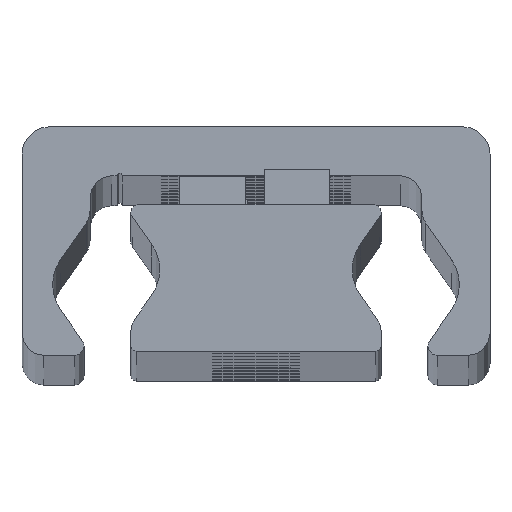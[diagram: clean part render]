
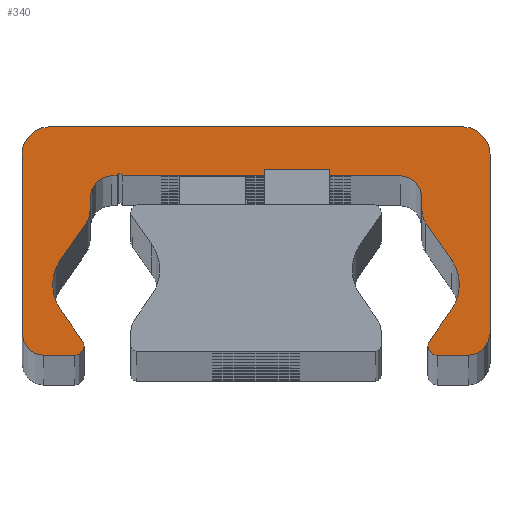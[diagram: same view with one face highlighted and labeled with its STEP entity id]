
A CAD part, top view. The second image highlights one B-rep face of the part: STEP entity #340.
In plain terms, the highlighted planar face has unit normal (0, 0, 1).
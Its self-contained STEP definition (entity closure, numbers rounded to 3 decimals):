
#340=ADVANCED_FACE('',(#978),#979,.T.);
#978=FACE_OUTER_BOUND('',#1617,.T.);
#979=PLANE('',#1618);
#1617=EDGE_LOOP('',(#3754,#3755,#3756,#3757,#3758,#3759,#3760,#3761,#3762,#3763,#3764,#3765,#3766,#3767,#3768,#3769,#3770,#3771,#3772,#3773,#3774,#3775,#3776,#3777,#3778,#3779,#3780,#3781,#3782,#3783));
#1618=AXIS2_PLACEMENT_3D('',#3784,#3785,#3786);
#3754=ORIENTED_EDGE('',*,*,#4199,.F.);
#3755=ORIENTED_EDGE('',*,*,#4502,.F.);
#3756=ORIENTED_EDGE('',*,*,#4185,.F.);
#3757=ORIENTED_EDGE('',*,*,#4501,.F.);
#3758=ORIENTED_EDGE('',*,*,#4497,.F.);
#3759=ORIENTED_EDGE('',*,*,#4494,.F.);
#3760=ORIENTED_EDGE('',*,*,#4491,.F.);
#3761=ORIENTED_EDGE('',*,*,#4488,.F.);
#3762=ORIENTED_EDGE('',*,*,#4485,.F.);
#3763=ORIENTED_EDGE('',*,*,#4482,.F.);
#3764=ORIENTED_EDGE('',*,*,#4479,.F.);
#3765=ORIENTED_EDGE('',*,*,#4476,.F.);
#3766=ORIENTED_EDGE('',*,*,#4473,.F.);
#3767=ORIENTED_EDGE('',*,*,#4470,.F.);
#3768=ORIENTED_EDGE('',*,*,#4191,.F.);
#3769=ORIENTED_EDGE('',*,*,#4468,.F.);
#3770=ORIENTED_EDGE('',*,*,#4193,.F.);
#3771=ORIENTED_EDGE('',*,*,#4467,.F.);
#3772=ORIENTED_EDGE('',*,*,#4463,.F.);
#3773=ORIENTED_EDGE('',*,*,#4460,.F.);
#3774=ORIENTED_EDGE('',*,*,#4457,.F.);
#3775=ORIENTED_EDGE('',*,*,#4454,.F.);
#3776=ORIENTED_EDGE('',*,*,#4451,.F.);
#3777=ORIENTED_EDGE('',*,*,#4448,.F.);
#3778=ORIENTED_EDGE('',*,*,#4445,.F.);
#3779=ORIENTED_EDGE('',*,*,#4442,.F.);
#3780=ORIENTED_EDGE('',*,*,#4439,.F.);
#3781=ORIENTED_EDGE('',*,*,#4436,.F.);
#3782=ORIENTED_EDGE('',*,*,#4433,.F.);
#3783=ORIENTED_EDGE('',*,*,#4430,.F.);
#3784=CARTESIAN_POINT('',(-0.023,14.187,777.0));
#3785=DIRECTION('',(0.0,0.0,1.0));
#3786=DIRECTION('',(1.0,0.0,0.0));
#4185=EDGE_CURVE('',#5084,#5087,#5088,.T.);
#4191=EDGE_CURVE('',#5097,#5093,#5099,.T.);
#4193=EDGE_CURVE('',#5100,#5103,#5104,.T.);
#4199=EDGE_CURVE('',#5113,#5109,#5115,.T.);
#4430=EDGE_CURVE('',#5109,#5486,#5487,.T.);
#4433=EDGE_CURVE('',#5486,#5491,#5492,.T.);
#4436=EDGE_CURVE('',#5491,#5496,#5497,.T.);
#4439=EDGE_CURVE('',#5496,#5501,#5502,.T.);
#4442=EDGE_CURVE('',#5501,#5506,#5507,.T.);
#4445=EDGE_CURVE('',#5506,#5511,#5512,.T.);
#4448=EDGE_CURVE('',#5511,#5516,#5517,.T.);
#4451=EDGE_CURVE('',#5516,#5521,#5522,.T.);
#4454=EDGE_CURVE('',#5521,#5526,#5527,.T.);
#4457=EDGE_CURVE('',#5526,#5531,#5532,.T.);
#4460=EDGE_CURVE('',#5531,#5536,#5537,.T.);
#4463=EDGE_CURVE('',#5536,#5541,#5542,.T.);
#4467=EDGE_CURVE('',#5541,#5100,#5547,.T.);
#4468=EDGE_CURVE('',#5103,#5097,#5548,.T.);
#4470=EDGE_CURVE('',#5093,#5550,#5551,.T.);
#4473=EDGE_CURVE('',#5550,#5555,#5556,.T.);
#4476=EDGE_CURVE('',#5555,#5560,#5561,.T.);
#4479=EDGE_CURVE('',#5560,#5565,#5566,.T.);
#4482=EDGE_CURVE('',#5565,#5570,#5571,.T.);
#4485=EDGE_CURVE('',#5570,#5575,#5576,.T.);
#4488=EDGE_CURVE('',#5575,#5580,#5581,.T.);
#4491=EDGE_CURVE('',#5580,#5585,#5586,.T.);
#4494=EDGE_CURVE('',#5585,#5590,#5591,.T.);
#4497=EDGE_CURVE('',#5590,#5595,#5596,.T.);
#4501=EDGE_CURVE('',#5595,#5084,#5601,.T.);
#4502=EDGE_CURVE('',#5087,#5113,#5602,.T.);
#5084=VERTEX_POINT('',#6364);
#5087=VERTEX_POINT('',#6368);
#5088=CIRCLE('',#6369,0.85);
#5093=VERTEX_POINT('',#6375);
#5097=VERTEX_POINT('',#6380);
#5099=CIRCLE('',#6383,0.85);
#5100=VERTEX_POINT('',#6384);
#5103=VERTEX_POINT('',#6388);
#5104=CIRCLE('',#6389,4.);
#5109=VERTEX_POINT('',#6395);
#5113=VERTEX_POINT('',#6400);
#5115=CIRCLE('',#6403,4.);
#5486=VERTEX_POINT('',#6880);
#5487=CIRCLE('',#6881,4.);
#5491=VERTEX_POINT('',#6886);
#5492=LINE('',#6887,#6888);
#5496=VERTEX_POINT('',#6894);
#5497=CIRCLE('',#6895,2.);
#5501=VERTEX_POINT('',#6900);
#5502=LINE('',#6901,#6902);
#5506=VERTEX_POINT('',#6908);
#5507=CIRCLE('',#6909,2.0);
#5511=VERTEX_POINT('',#6914);
#5512=LINE('',#6915,#6916);
#5516=VERTEX_POINT('',#6922);
#5517=CIRCLE('',#6923,0.25);
#5521=VERTEX_POINT('',#6928);
#5522=LINE('',#6929,#6930);
#5526=VERTEX_POINT('',#6936);
#5527=CIRCLE('',#6937,2.0);
#5531=VERTEX_POINT('',#6942);
#5532=LINE('',#6943,#6944);
#5536=VERTEX_POINT('',#6950);
#5537=CIRCLE('',#6951,2.0);
#5541=VERTEX_POINT('',#6956);
#5542=LINE('',#6957,#6958);
#5547=CIRCLE('',#6965,4.);
#5548=LINE('',#6966,#6967);
#5550=VERTEX_POINT('',#6970);
#5551=CIRCLE('',#6971,0.85);
#5555=VERTEX_POINT('',#6976);
#5556=LINE('',#6977,#6978);
#5560=VERTEX_POINT('',#6984);
#5561=CIRCLE('',#6985,2.);
#5565=VERTEX_POINT('',#6990);
#5566=LINE('',#6991,#6992);
#5570=VERTEX_POINT('',#6998);
#5571=CIRCLE('',#6999,2.5);
#5575=VERTEX_POINT('',#7004);
#5576=LINE('',#7005,#7006);
#5580=VERTEX_POINT('',#7012);
#5581=CIRCLE('',#7013,2.5);
#5585=VERTEX_POINT('',#7018);
#5586=LINE('',#7019,#7020);
#5590=VERTEX_POINT('',#7026);
#5591=CIRCLE('',#7027,2.);
#5595=VERTEX_POINT('',#7032);
#5596=LINE('',#7033,#7034);
#5601=CIRCLE('',#7041,0.85);
#5602=LINE('',#7042,#7043);
#6364=CARTESIAN_POINT('',(15.8,1.859,777.0));
#6368=CARTESIAN_POINT('',(15.922,2.298,777.0));
#6369=AXIS2_PLACEMENT_3D('',#7779,#7780,#7781);
#6375=CARTESIAN_POINT('',(-15.8,1.859,777.0));
#6380=CARTESIAN_POINT('',(-15.922,2.298,777.0));
#6383=AXIS2_PLACEMENT_3D('',#7791,#7792,#7793);
#6384=CARTESIAN_POINT('',(-18.688,7.509,777.0));
#6388=CARTESIAN_POINT('',(-17.964,5.214,777.0));
#6389=AXIS2_PLACEMENT_3D('',#7795,#7796,#7797);
#6395=CARTESIAN_POINT('',(18.688,7.509,777.0));
#6400=CARTESIAN_POINT('',(17.964,5.214,777.0));
#6403=AXIS2_PLACEMENT_3D('',#7807,#7808,#7809);
#6880=CARTESIAN_POINT('',(17.964,9.803,777.0));
#6881=AXIS2_PLACEMENT_3D('',#8288,#8289,#8290);
#6886=CARTESIAN_POINT('',(15.612,13.163,777.0));
#6887=CARTESIAN_POINT('',(15.612,13.163,777.0));
#6888=VECTOR('',#8295,1.0);
#6894=CARTESIAN_POINT('',(15.25,14.31,777.0));
#6895=AXIS2_PLACEMENT_3D('',#8298,#8299,#8300);
#6900=CARTESIAN_POINT('',(15.25,15.509,777.0));
#6901=CARTESIAN_POINT('',(15.25,15.509,777.0));
#6902=VECTOR('',#8305,1.0);
#6908=CARTESIAN_POINT('',(13.25,17.509,777.0));
#6909=AXIS2_PLACEMENT_3D('',#8308,#8309,#8310);
#6914=CARTESIAN_POINT('',(-12.25,17.509,777.0));
#6915=CARTESIAN_POINT('',(-12.25,17.509,777.0));
#6916=VECTOR('',#8315,1.0);
#6922=CARTESIAN_POINT('',(-12.75,17.509,777.0));
#6923=AXIS2_PLACEMENT_3D('',#8318,#8319,#8320);
#6928=CARTESIAN_POINT('',(-13.25,17.509,777.0));
#6929=CARTESIAN_POINT('',(-13.25,17.509,777.0));
#6930=VECTOR('',#8325,1.0);
#6936=CARTESIAN_POINT('',(-15.25,15.509,777.0));
#6937=AXIS2_PLACEMENT_3D('',#8328,#8329,#8330);
#6942=CARTESIAN_POINT('',(-15.25,14.31,777.0));
#6943=CARTESIAN_POINT('',(-15.25,14.31,777.0));
#6944=VECTOR('',#8335,1.0);
#6950=CARTESIAN_POINT('',(-15.612,13.163,777.0));
#6951=AXIS2_PLACEMENT_3D('',#8338,#8339,#8340);
#6956=CARTESIAN_POINT('',(-17.964,9.803,777.0));
#6957=CARTESIAN_POINT('',(-17.964,9.803,777.0));
#6958=VECTOR('',#8345,1.);
#6965=AXIS2_PLACEMENT_3D('',#8351,#8352,#8353);
#6966=CARTESIAN_POINT('',(-15.922,2.298,777.0));
#6967=VECTOR('',#8354,1.0);
#6970=CARTESIAN_POINT('',(-16.65,1.009,777.0));
#6971=AXIS2_PLACEMENT_3D('',#8356,#8357,#8358);
#6976=CARTESIAN_POINT('',(-19.5,1.009,777.0));
#6977=CARTESIAN_POINT('',(-19.5,1.009,777.0));
#6978=VECTOR('',#8363,1.0);
#6984=CARTESIAN_POINT('',(-21.5,3.009,777.0));
#6985=AXIS2_PLACEMENT_3D('',#8366,#8367,#8368);
#6990=CARTESIAN_POINT('',(-21.5,19.509,777.0));
#6991=CARTESIAN_POINT('',(-21.5,19.509,777.0));
#6992=VECTOR('',#8373,1.0);
#6998=CARTESIAN_POINT('',(-19.0,22.009,777.0));
#6999=AXIS2_PLACEMENT_3D('',#8376,#8377,#8378);
#7004=CARTESIAN_POINT('',(19.0,22.009,777.0));
#7005=CARTESIAN_POINT('',(19.0,22.009,777.0));
#7006=VECTOR('',#8383,1.0);
#7012=CARTESIAN_POINT('',(21.5,19.509,777.0));
#7013=AXIS2_PLACEMENT_3D('',#8386,#8387,#8388);
#7018=CARTESIAN_POINT('',(21.5,3.009,777.0));
#7019=CARTESIAN_POINT('',(21.5,3.009,777.0));
#7020=VECTOR('',#8393,1.0);
#7026=CARTESIAN_POINT('',(19.5,1.009,777.0));
#7027=AXIS2_PLACEMENT_3D('',#8396,#8397,#8398);
#7032=CARTESIAN_POINT('',(16.65,1.009,777.0));
#7033=CARTESIAN_POINT('',(16.65,1.009,777.0));
#7034=VECTOR('',#8403,1.0);
#7041=AXIS2_PLACEMENT_3D('',#8409,#8410,#8411);
#7042=CARTESIAN_POINT('',(17.964,5.214,777.0));
#7043=VECTOR('',#8412,1.0);
#7779=CARTESIAN_POINT('',(16.65,1.859,777.0));
#7780=DIRECTION('',(0.0,0.0,-1.0));
#7781=DIRECTION('',(1.0,0.0,0.0));
#7791=CARTESIAN_POINT('',(-16.65,1.859,777.0));
#7792=DIRECTION('',(0.0,0.0,-1.0));
#7793=DIRECTION('',(1.0,0.0,0.0));
#7795=CARTESIAN_POINT('',(-14.688,7.509,777.0));
#7796=DIRECTION('',(0.0,0.0,1.0));
#7797=DIRECTION('',(1.0,0.0,0.0));
#7807=CARTESIAN_POINT('',(14.688,7.509,777.0));
#7808=DIRECTION('',(0.0,0.0,1.0));
#7809=DIRECTION('',(1.0,0.0,0.0));
#8288=CARTESIAN_POINT('',(14.688,7.509,777.0));
#8289=DIRECTION('',(0.0,0.0,1.0));
#8290=DIRECTION('',(1.0,0.0,0.0));
#8295=DIRECTION('',(-0.574,0.819,0.0));
#8298=CARTESIAN_POINT('',(17.25,14.31,777.0));
#8299=DIRECTION('',(0.0,0.0,-1.0));
#8300=DIRECTION('',(1.0,0.0,0.0));
#8305=DIRECTION('',(0.0,1.0,0.0));
#8308=CARTESIAN_POINT('',(13.25,15.509,777.0));
#8309=DIRECTION('',(0.0,0.0,1.0));
#8310=DIRECTION('',(1.0,0.0,0.0));
#8315=DIRECTION('',(-1.0,-0.0,-0.0));
#8318=CARTESIAN_POINT('',(-12.5,17.509,777.0));
#8319=DIRECTION('',(0.0,0.0,1.0));
#8320=DIRECTION('',(1.0,0.0,0.0));
#8325=DIRECTION('',(-1.0,-0.0,-0.0));
#8328=CARTESIAN_POINT('',(-13.25,15.509,777.0));
#8329=DIRECTION('',(0.0,0.0,1.0));
#8330=DIRECTION('',(1.0,0.0,0.0));
#8335=DIRECTION('',(-0.0,-1.0,-0.0));
#8338=CARTESIAN_POINT('',(-17.25,14.31,777.0));
#8339=DIRECTION('',(0.0,0.0,-1.0));
#8340=DIRECTION('',(1.0,0.0,0.0));
#8345=DIRECTION('',(-0.574,-0.819,-0.0));
#8351=CARTESIAN_POINT('',(-14.688,7.509,777.0));
#8352=DIRECTION('',(0.0,0.0,1.0));
#8353=DIRECTION('',(1.0,0.0,0.0));
#8354=DIRECTION('',(0.574,-0.819,0.0));
#8356=CARTESIAN_POINT('',(-16.65,1.859,777.0));
#8357=DIRECTION('',(0.0,0.0,-1.0));
#8358=DIRECTION('',(1.0,0.0,0.0));
#8363=DIRECTION('',(-1.0,-0.0,-0.0));
#8366=CARTESIAN_POINT('',(-19.5,3.009,777.0));
#8367=DIRECTION('',(0.0,0.0,-1.0));
#8368=DIRECTION('',(1.0,0.0,0.0));
#8373=DIRECTION('',(0.0,1.0,0.0));
#8376=CARTESIAN_POINT('',(-19.0,19.509,777.0));
#8377=DIRECTION('',(0.0,0.0,-1.0));
#8378=DIRECTION('',(1.0,0.0,0.0));
#8383=DIRECTION('',(1.0,0.0,0.0));
#8386=CARTESIAN_POINT('',(19.0,19.509,777.0));
#8387=DIRECTION('',(0.0,0.0,-1.0));
#8388=DIRECTION('',(1.0,0.0,0.0));
#8393=DIRECTION('',(-0.0,-1.0,-0.0));
#8396=CARTESIAN_POINT('',(19.5,3.009,777.0));
#8397=DIRECTION('',(0.0,0.0,-1.0));
#8398=DIRECTION('',(1.0,0.0,0.0));
#8403=DIRECTION('',(-1.0,-0.0,-0.0));
#8409=CARTESIAN_POINT('',(16.65,1.859,777.0));
#8410=DIRECTION('',(0.0,0.0,-1.0));
#8411=DIRECTION('',(1.0,0.0,0.0));
#8412=DIRECTION('',(0.574,0.819,0.0));
